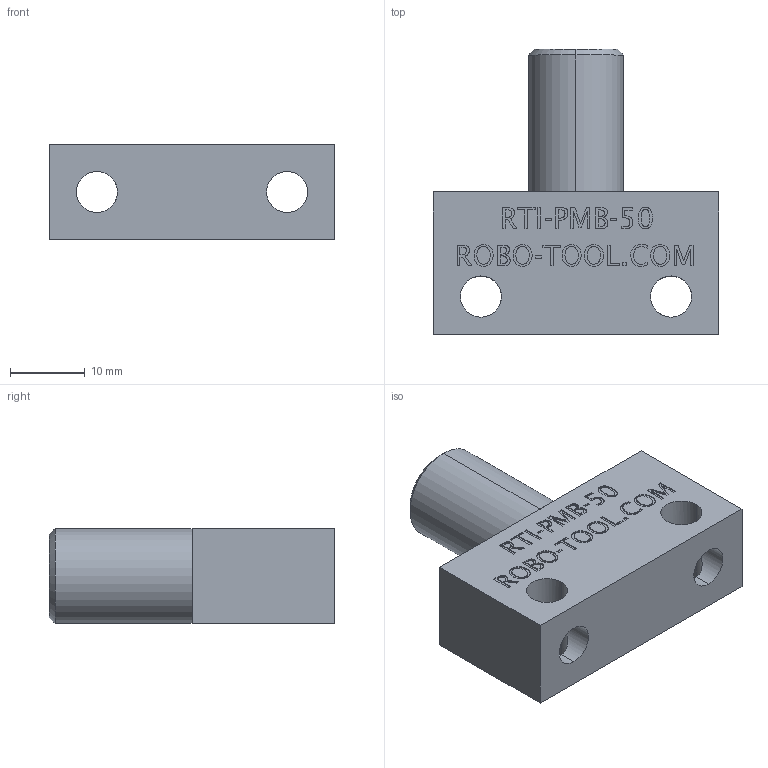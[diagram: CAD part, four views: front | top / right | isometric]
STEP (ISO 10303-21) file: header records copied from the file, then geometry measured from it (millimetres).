
FILE_DESCRIPTION (( 'STEP AP214' ), '1' );
FILE_NAME ('RTI-PMB-50.STEP', '2013-10-22T14:37:23', ( 'user' ), ( '' ), 'SwSTEP 2.0', 'SolidWorks 2009', '' );
FILE_SCHEMA (( 'AUTOMOTIVE_DESIGN' ));
Length unit declared in the file: inch
Products named in the file (1): RTI-PMB-50
Bounding box: 38.1 x 38.1 x 12.7 mm (x, y, z)
Volume: 9696 mm3; surface area: 4495.4 mm2
Topology: 1 solids, 1 shells, 280 faces, 727 edges, 484 vertices
Faces by surface type: plane 169, bspline 91, cylinder 18, cone 2
Entity records: 18316 total; most frequent: CARTESIAN_POINT 8927, ORIENTED_EDGE 1454, DIRECTION 939, EDGE_CURVE 727, VECTOR 499, LINE 499, VERTEX_POINT 484, EDGE_LOOP 327
